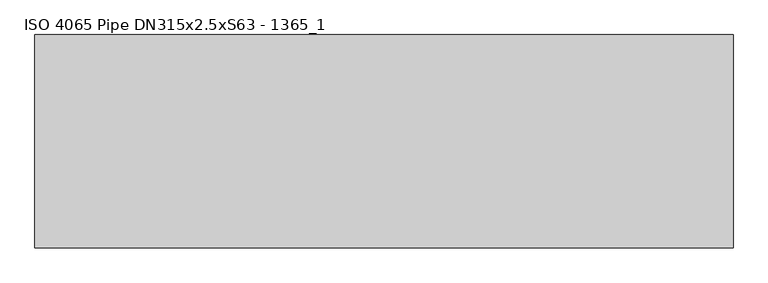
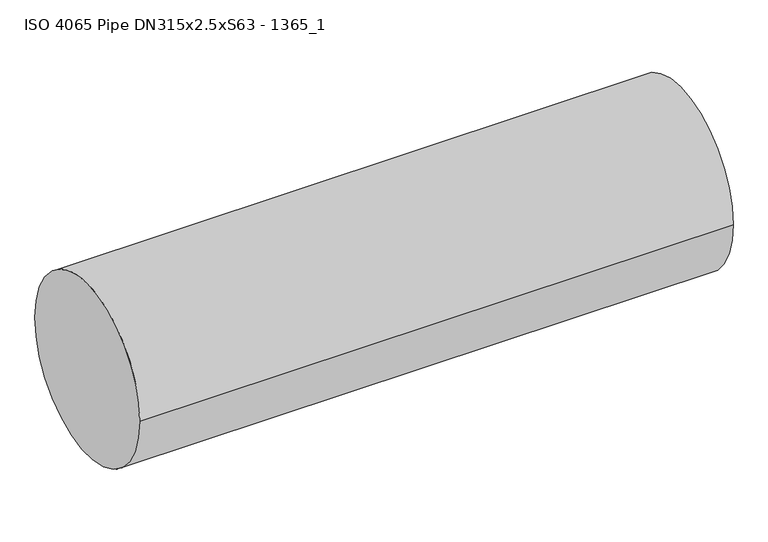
"""IFC4 building model written with IfcOpenShell, lengths in millimetres: proxy geometry, ISO 4065 Pipe DN315x2.5xS63 - 1365_1."""

from ifc_helpers import new_model, si_unit, point, frame, origin, origin_2d, place, context, project, spatial, circle_curve, trimmed, segment, composite_curve, outline, extrude, source, transform, mapped, element, save


def iso_4065_pipe_dn315x2_5xs63_1365_1_8fdb7b6d(model_context):
    return source(origin(), model_context, "Body", "SweptSolid", [
        extrude(outline(composite_curve([segment(trimmed(circle_curve(origin_2d(), 157.5), [point((157.5, 0.0))], [point((-157.5, 0.0))], False, "CARTESIAN"), True, "CONTINUOUS"), segment(trimmed(circle_curve(origin_2d(), 157.5), [point((-157.5, 0.0))], [point((157.5, 0.0))], False, "CARTESIAN"), True, "CONTINUOUS")], self_intersect=False)), frame((0.0, 0.0, 0.0), z_axis=(1.0, 0.0, 0.0), x_axis=(0.0, 1.0, 0.0)), (0.0, 0.0, 1.0), 1031.0),
    ])


if __name__ == "__main__":
    model = new_model("IFC4")
    model_context = context("Model", 3, world=origin())
    ifc_project = project(units=[si_unit("LENGTHUNIT", "METRE", prefix="MILLI")], contexts=[model_context])
    site = spatial("IfcSite", under=ifc_project)
    building = spatial("IfcBuilding", under=site)
    placement = place(None, origin())
    iso_4065_pipe_dn315x2_5xs63_1365_1_shape = iso_4065_pipe_dn315x2_5xs63_1365_1_8fdb7b6d(model_context)
    element("IfcBuildingElementProxy", 1, Name="ISO 4065 Pipe DN315x2.5xS63 - 1365_1", ObjectType="ISO 4065 Pipe DN315x2.5xS63 - 1365_1", at=placement, inside=building, context=model_context, shape_type="MappedRepresentation", body=[
        mapped(iso_4065_pipe_dn315x2_5xs63_1365_1_shape, transform((0.0, 0.0, 0.0), x_axis=(1.0, 0.0, 0.0), y_axis=(0.0, 1.0, 0.0), z_axis=(0.0, 0.0, 1.0))),
    ])
    save(model, "model.ifc")
